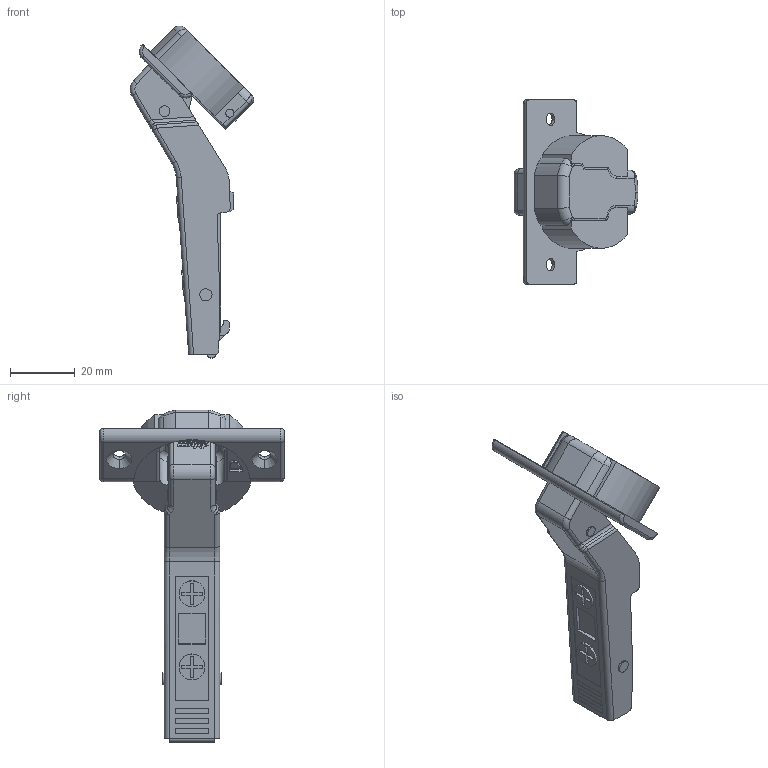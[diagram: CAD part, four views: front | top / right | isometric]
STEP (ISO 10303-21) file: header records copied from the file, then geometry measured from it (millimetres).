
FILE_DESCRIPTION (( 'STEP AP214' ), '1' );
FILE_NAME ('48587998.step', '2022-02-16T19:25:50', ( '' ), ( '' ), 'SwSTEP 2.0', 'SolidWorks 2019', '' );
FILE_SCHEMA (( 'AUTOMOTIVE_DESIGN' ));
Length unit declared in the file: millimetre
Products named in the file (6): bau0015167363_v(80.910-05); bau0015166285_v(71B955M01); 48587998; bau0017011183_v(78A928-T2.03); bau0019426112_v(74T110M14.01); bau0015167707_v(80.910-04.01)
Assembly tree (5 placements, depth 2):
  48587998
    bau0017011183_v(78A928-T2.03)
    bau0019426112_v(74T110M14.01)
    bau0015167707_v(80.910-04.01)
    bau0015167363_v(80.910-05)
    bau0015166285_v(71B955M01)
Bounding box: 38.32 x 57 x 102.68 mm (x, y, z)
Volume: 34612.9 mm3; surface area: 17576.9 mm2
Topology: 5 solids, 5 shells, 469 faces, 1267 edges, 819 vertices
Faces by surface type: plane 220, cylinder 205, torus 31, bspline 7, cone 4, sphere 2
Entity records: 15761 total; most frequent: CARTESIAN_POINT 3285, DIRECTION 2556, ORIENTED_EDGE 2524, EDGE_CURVE 1262, AXIS2_PLACEMENT_3D 903, VERTEX_POINT 819, LINE 750, VECTOR 750
